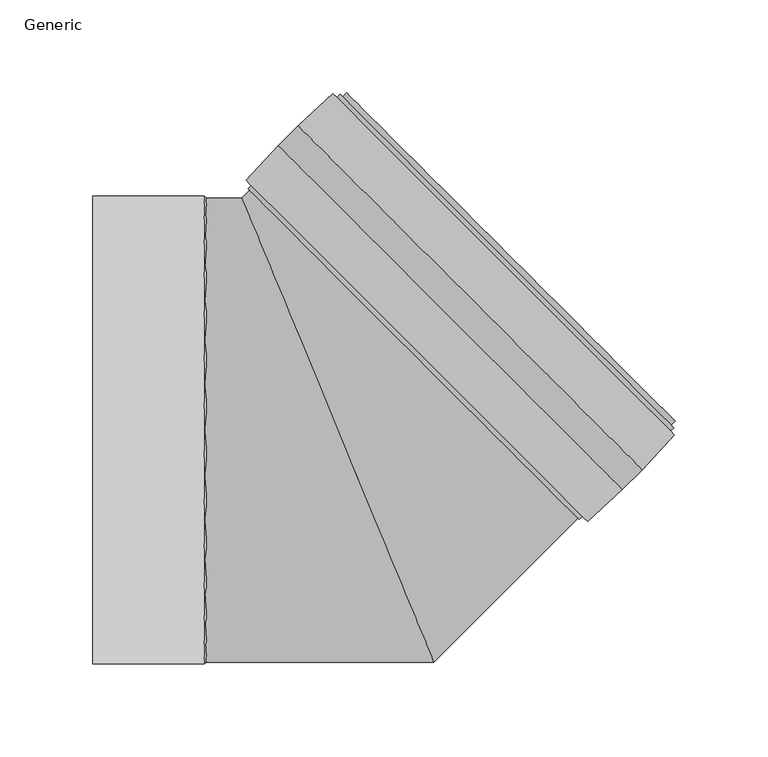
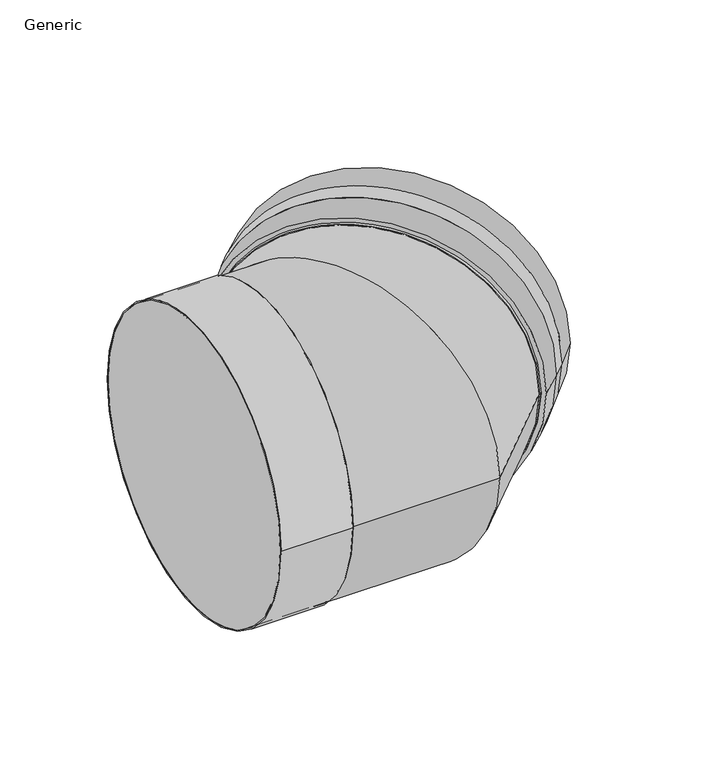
"""IFC4 building model written with IfcOpenShell, lengths in millimetres: pipe fitting geometry, CADS_Jeremias_Elbow_Socket1 : Generic."""

from ifc_helpers import new_model, si_unit, point, frame, origin, place, context, project, spatial, polyline, circle_curve, ellipse_curve, trimmed, source, transform, mapped, element, save
from ifc_brep_helpers import plane_surface, cylinder_surface, revolved_surface, advanced_brep


def generic_9bd3fc94(model_context):
    return source(origin(), model_context, "Body", "AdvancedBrep", [
        advanced_brep(
        [(-0.5367428, 179.0683796, 0.0), (1.2310241, 180.8361466, 0.0), (180.8361466, 1.2310241, 0.0), (179.0683796, -0.5367428, 0.0), (179.421933, 2.6452377, 0.0), (2.6452377, 179.421933, 0.0), (129.2426407, -47.5340546, 0.0), (-47.5340546, 129.2426407, 0.0), (129.9541948, -48.2456087, 0.0), (131.7219617, -46.4778418, 0.0), (-46.4778418, 131.7219617, 0.0), (-48.2456087, 129.9541948, 0.0), (-2.6580632, 181.1897, 0.0), (181.1897, -2.6580632, 0.0), (134.5459415, -49.3018216, 0.0), (-49.3018216, 134.5459415, 0.0), (163.865378, -21.3708979, 0.0), (-21.3708979, 163.865378, 0.0), (153.2587763, -31.9774996, 0.0), (-31.9774996, 153.2587763, 0.0)],
        [
            (0, 1),
            (1, 2, circle_curve(frame((91.0335854, 91.0335854, 0.0), z_axis=(-0.7071067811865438, -0.7071067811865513, 0.0), x_axis=(0.7071067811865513, -0.7071067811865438, 0.0)), 127.0)),
            (2, 3),
            (3, 0, circle_curve(frame((89.2658184, 89.2658184, 0.0), z_axis=(0.7071067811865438, 0.7071067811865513, 0.0), x_axis=(0.7071067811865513, -0.7071067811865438, 0.0)), 127.0)),
            (1, 2, circle_curve(frame((91.0335854, 91.0335854, 0.0), z_axis=(0.7071067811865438, 0.7071067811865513, 0.0), x_axis=(-0.7071067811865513, 0.7071067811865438, 0.0)), 127.0)),
            (4, 5, circle_curve(frame((91.0335854, 91.0335854, 0.0), z_axis=(-0.7071067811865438, -0.7071067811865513, 0.0), x_axis=(-0.7071067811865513, 0.7071067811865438, 0.0)), 125.0)),
            (5, 4, circle_curve(frame((91.0335854, 91.0335854, 0.0), z_axis=(-0.7071067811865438, -0.7071067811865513, 0.0), x_axis=(0.7071067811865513, -0.7071067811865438, 0.0)), 125.0)),
            (4, 6),
            (6, 7, circle_curve(frame((40.854293, 40.854293, 0.0), z_axis=(-0.7071067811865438, -0.7071067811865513, 0.0), x_axis=(-0.7071067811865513, 0.7071067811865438, 0.0)), 125.0)),
            (7, 5),
            (0, 3, circle_curve(frame((89.2658184, 89.2658184, 0.0), z_axis=(0.7071067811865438, 0.7071067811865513, 0.0), x_axis=(-0.7071067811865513, 0.7071067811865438, 0.0)), 127.0)),
            (8, 9),
            (9, 10, circle_curve(frame((42.62206, 42.62206, 0.0), z_axis=(-0.7071067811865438, -0.7071067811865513, 0.0), x_axis=(-0.7071067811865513, 0.7071067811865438, 0.0)), 126.0062895)),
            (10, 11),
            (11, 8, circle_curve(frame((40.854293, 40.854293, 0.0), z_axis=(0.7071067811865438, 0.7071067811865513, 0.0), x_axis=(-0.7071067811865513, 0.7071067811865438, 0.0)), 126.0062895)),
            (11, 8, circle_curve(frame((40.854293, 40.854293, 0.0), z_axis=(-0.7071067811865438, -0.7071067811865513, 0.0), x_axis=(0.7071067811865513, -0.7071067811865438, 0.0)), 126.0062895)),
            (6, 7, circle_curve(frame((40.854293, 40.854293, 0.0), z_axis=(0.7071067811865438, 0.7071067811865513, 0.0), x_axis=(0.7071067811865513, -0.7071067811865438, 0.0)), 125.0)),
            (12, 13, circle_curve(frame((89.2658184, 89.2658184, 0.0), z_axis=(0.7071067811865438, 0.7071067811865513, 0.0), x_axis=(-0.7071067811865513, 0.7071067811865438, 0.0)), 130.0)),
            (13, 12, circle_curve(frame((89.2658184, 89.2658184, 0.0), z_axis=(0.7071067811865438, 0.7071067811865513, 0.0), x_axis=(0.7071067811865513, -0.7071067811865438, 0.0)), 130.0)),
            (14, 15, circle_curve(frame((42.62206, 42.62206, 0.0), z_axis=(-0.7071067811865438, -0.7071067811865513, 0.0), x_axis=(-0.7071067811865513, 0.7071067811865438, 0.0)), 130.0)),
            (15, 14, circle_curve(frame((42.62206, 42.62206, 0.0), z_axis=(-0.7071067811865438, -0.7071067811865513, 0.0), x_axis=(0.7071067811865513, -0.7071067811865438, 0.0)), 130.0)),
            (9, 10, circle_curve(frame((42.62206, 42.62206, 0.0), z_axis=(0.7071067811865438, 0.7071067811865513, 0.0), x_axis=(0.7071067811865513, -0.7071067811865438, 0.0)), 126.0062895)),
            (16, 13, circle_curve(frame((-70.3068715, 212.8013516, 0.0), z_axis=(0.0, 0.0, 1.0), x_axis=(-0.7071067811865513, 0.7071067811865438, 0.0)), 331.1695712)),
            (12, 17, circle_curve(frame((212.8013516, -70.3068715, 0.0), z_axis=(0.0, 0.0, 1.0), x_axis=(0.7071067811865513, -0.7071067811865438, 0.0)), 331.1695712)),
            (17, 16, circle_curve(frame((71.2472401, 71.2472401, 0.0), z_axis=(0.7071067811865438, 0.7071067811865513, 0.0), x_axis=(-0.7071067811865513, 0.7071067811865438, 0.0)), 130.9818268)),
            (18, 16),
            (17, 19),
            (19, 18, circle_curve(frame((60.6406383, 60.6406383, 0.0), z_axis=(0.7071067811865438, 0.7071067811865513, 0.0), x_axis=(-0.7071067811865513, 0.7071067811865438, 0.0)), 130.9818268)),
            (14, 18, circle_curve(frame((-80.9134732, 202.1947499, 0.0), z_axis=(0.0, 0.0, 1.0), x_axis=(-0.7071067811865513, 0.7071067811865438, 0.0)), 331.1695712)),
            (19, 15, circle_curve(frame((202.1947499, -80.9134732, 0.0), z_axis=(0.0, 0.0, 1.0), x_axis=(0.7071067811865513, -0.7071067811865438, 0.0)), 331.1695712)),
            (16, 17, circle_curve(frame((71.2472401, 71.2472401, 0.0), z_axis=(0.7071067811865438, 0.7071067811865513, 0.0), x_axis=(0.7071067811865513, -0.7071067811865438, 0.0)), 130.9818268)),
            (18, 19, circle_curve(frame((60.6406383, 60.6406383, 0.0), z_axis=(0.7071067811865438, 0.7071067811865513, 0.0), x_axis=(0.7071067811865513, -0.7071067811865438, 0.0)), 130.9818268)),
        ],
        [
            cylinder_surface(frame((50.753788, 50.753788, 0.0), z_axis=(-0.7071067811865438, -0.7071067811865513, 0.0), x_axis=(0.7071067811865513, -0.7071067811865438, 0.0)), 127.0),
            plane_surface(frame((91.0335854, 91.0335854, 0.0), z_axis=(0.7071067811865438, 0.7071067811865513, 0.0), x_axis=(0.7071067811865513, -0.7071067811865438, 0.0))),
            revolved_surface(polyline([(-47.534054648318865, 129.24264064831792, 0.0), (2.645237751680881, 179.4219330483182, 0.0)]), (50.753788, 50.753788, 0.0), (-0.7071067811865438, -0.7071067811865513, 0.0)),
            cylinder_surface(frame((50.753788, 50.753788, 0.0), z_axis=(-0.7071067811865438, -0.7071067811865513, 0.0), x_axis=(-0.7071067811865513, 0.7071067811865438, 0.0)), 127.0),
            cylinder_surface(frame((50.753788, 50.753788, 0.0), z_axis=(-0.7071067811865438, -0.7071067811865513, 0.0), x_axis=(-0.7071067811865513, 0.7071067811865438, 0.0)), 126.0062895),
            plane_surface(frame((40.854293, 40.854293, 0.0), z_axis=(-0.7071067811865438, -0.7071067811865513, 0.0), x_axis=(0.7071067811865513, -0.7071067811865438, 0.0))),
            revolved_surface(polyline([(129.24264064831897, -47.53405464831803, 0.0), (179.4219330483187, 2.6452377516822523, 0.0)]), (50.753788, 50.753788, 0.0), (-0.7071067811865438, -0.7071067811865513, 0.0)),
            plane_surface(frame((89.2658184, 89.2658184, 0.0), z_axis=(0.7071067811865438, 0.7071067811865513, 0.0), x_axis=(0.7071067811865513, -0.7071067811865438, 0.0))),
            plane_surface(frame((42.62206, 42.62206, 0.0), z_axis=(-0.7071067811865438, -0.7071067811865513, 0.0), x_axis=(0.7071067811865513, -0.7071067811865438, 0.0))),
            cylinder_surface(frame((50.753788, 50.753788, 0.0), z_axis=(-0.7071067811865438, -0.7071067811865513, 0.0), x_axis=(0.7071067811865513, -0.7071067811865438, 0.0)), 126.0062895),
            revolved_surface(trimmed(ellipse_curve(frame((212.8013516, -70.3068715, 0.0), z_axis=(0.0, 0.0, 1.0), x_axis=(0.7071067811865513, -0.7071067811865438, 0.0)), 331.1695712, 331.1695712), [point((-2.6580632, 181.1897, 0.0))], [point((-21.3708979, 163.865378, 0.0))], True, "CARTESIAN"), (50.753788, 50.753788, 0.0), (-0.7071067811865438, -0.7071067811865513, 0.0)),
            cylinder_surface(frame((50.753788, 50.753788, 0.0), z_axis=(-0.7071067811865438, -0.7071067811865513, 0.0), x_axis=(-0.7071067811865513, 0.7071067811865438, 0.0)), 130.9818268),
            revolved_surface(trimmed(ellipse_curve(frame((202.1947499, -80.9134732, 0.0), z_axis=(0.0, 0.0, 1.0), x_axis=(0.7071067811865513, -0.7071067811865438, 0.0)), 331.1695712, 331.1695712), [point((-31.9774996, 153.2587763, 0.0))], [point((-49.3018216, 134.5459415, 0.0))], True, "CARTESIAN"), (50.753788, 50.753788, 0.0), (-0.7071067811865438, -0.7071067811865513, 0.0)),
            revolved_surface(trimmed(ellipse_curve(frame((-70.3068715, 212.8013516, 0.0), z_axis=(0.0, 0.0, -1.0), x_axis=(-0.7071067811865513, 0.7071067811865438, 0.0)), 331.1695712, 331.1695712), [point((181.1897, -2.6580632, 0.0))], [point((163.865378, -21.3708979, 0.0))], True, "CARTESIAN"), (50.753788, 50.753788, 0.0), (-0.7071067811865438, -0.7071067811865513, 0.0)),
            cylinder_surface(frame((50.753788, 50.753788, 0.0), z_axis=(-0.7071067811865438, -0.7071067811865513, 0.0), x_axis=(0.7071067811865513, -0.7071067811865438, 0.0)), 130.9818268),
            revolved_surface(trimmed(ellipse_curve(frame((-80.9134732, 202.1947499, 0.0), z_axis=(0.0, 0.0, -1.0), x_axis=(-0.7071067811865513, 0.7071067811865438, 0.0)), 331.1695712, 331.1695712), [point((153.2587763, -31.9774996, 0.0))], [point((134.5459415, -49.3018216, 0.0))], True, "CARTESIAN"), (50.753788, 50.753788, 0.0), (-0.7071067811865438, -0.7071067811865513, 0.0)),
        ],
        [
            (0, [[1, 2, 3, 4]]),
            (1, [[5, -2], [6, 7]]),
            (2, [[8, 9, 10, -6]]),
            (3, [[-3, -5, -1, 11]]),
            (4, [[12, 13, 14, 15]]),
            (5, [[-15, 16], [-9, 17]]),
            (6, [[-10, -17, -8, -7]]),
            (7, [[18, 19], [-11, -4]]),
            (8, [[20, 21], [-13, 22]]),
            (9, [[-14, -22, -12, -16]]),
            (10, [[23, -18, 24, 25]]),
            (11, [[26, -25, 27, 28]]),
            (12, [[29, -28, 30, -20]]),
            (13, [[-24, -19, -23, 31]]),
            (14, [[-27, -31, -26, 32]]),
            (15, [[-30, -32, -29, -21]]),
        ],
    ),
        advanced_brep(
        [(-71.7766953, 126.0, 0.0), (-71.7766953, -126.0, 0.0), (-131.7766953, -126.0, 0.0), (-131.7766953, 126.0, 0.0), (-70.7766953, 125.0, 0.0), (-70.7766953, -125.0, 0.0), (-131.7766953, 125.0, 0.0), (-131.7766953, -125.0, 0.0)],
        [
            (0, 1, circle_curve(frame((-71.7766953, 0.0, 0.0), z_axis=(-1.0, 0.0, 0.0), x_axis=(0.0, -1.0, 0.0)), 126.0)),
            (1, 2),
            (2, 3, circle_curve(frame((-131.7766953, 0.0, 0.0), z_axis=(1.0, 0.0, 0.0), x_axis=(0.0, -1.0, 0.0)), 126.0)),
            (3, 0),
            (4, 5, circle_curve(frame((-70.7766953, 0.0, 0.0), z_axis=(-1.0, 0.0, 0.0), x_axis=(0.0, -1.0, 0.0)), 125.0)),
            (5, 1),
            (0, 4),
            (6, 7, circle_curve(frame((-131.7766953, 0.0, 0.0), z_axis=(-1.0, 0.0, 0.0), x_axis=(0.0, -1.0, 0.0)), 125.0)),
            (7, 5),
            (4, 6),
            (2, 3, circle_curve(frame((-131.7766953, 0.0, 0.0), z_axis=(-1.0, 0.0, 0.0), x_axis=(0.0, 1.0, 0.0)), 126.0)),
            (6, 7, circle_curve(frame((-131.7766953, 0.0, 0.0), z_axis=(1.0, 0.0, 0.0), x_axis=(0.0, 1.0, 0.0)), 125.0)),
            (1, 0, circle_curve(frame((-71.7766953, 0.0, 0.0), z_axis=(-1.0, 0.0, 0.0), x_axis=(0.0, 1.0, 0.0)), 126.0)),
            (5, 4, circle_curve(frame((-70.7766953, 0.0, 0.0), z_axis=(-1.0, 0.0, 0.0), x_axis=(0.0, 1.0, 0.0)), 125.0)),
        ],
        [
            cylinder_surface(frame((-131.7766953, 0.0, 0.0), z_axis=(1.0, 0.0, 0.0), x_axis=(0.0, -1.0, 0.0)), 126.0),
            revolved_surface(polyline([(-71.7766953, -126.0, 0.0), (-70.7766953, -125.0, 0.0)]), (-131.7766953, 0.0, 0.0), (1.0, 0.0, 0.0)),
            revolved_surface(polyline([(-70.7766953, -125.0, 0.0), (-131.7766953, -125.0, 0.0)]), (-131.7766953, 0.0, 0.0), (1.0, 0.0, 0.0)),
            plane_surface(frame((-131.7766953, 0.0, 0.0), z_axis=(-1.0, 0.0, 0.0), x_axis=(0.0, 1.0, 0.0))),
            cylinder_surface(frame((-131.7766953, 0.0, 0.0), z_axis=(1.0, 0.0, 0.0), x_axis=(0.0, 1.0, 0.0)), 126.0),
            revolved_surface(polyline([(-71.7766953, 126.0, 0.0), (-70.7766953, 125.0, 0.0)]), (-131.7766953, 0.0, 0.0), (1.0, 0.0, 0.0)),
            revolved_surface(polyline([(-70.7766953, 125.0, 0.0), (-131.7766953, 125.0, 0.0)]), (-131.7766953, 0.0, 0.0), (1.0, 0.0, 0.0)),
        ],
        [
            (0, [[1, 2, 3, 4]]),
            (1, [[5, 6, -1, 7]]),
            (2, [[8, 9, -5, 10]]),
            (3, [[11, -3], [12, -8]]),
            (4, [[13, -4, -11, -2]]),
            (5, [[14, -7, -13, -6]]),
            (6, [[-12, -10, -14, -9]]),
        ],
    ),
        advanced_brep(
        [(-131.7766953, -125.0, 0.0), (-131.7766953, 125.0, 0.0), (-71.7766953, 125.0, 0.0), (-71.7766953, -125.0, 0.0), (51.7766953, -125.0, 0.0), (-51.7766953, 125.0, 0.0), (139.1421356, -37.6345597, 0.0), (-37.6345597, 139.1421356, 0.0), (181.5685425, 4.7918472, 0.0), (4.7918472, 181.5685425, 0.0)],
        [
            (0, 1, circle_curve(frame((-131.7766953, 0.0, 0.0), z_axis=(-1.0, 0.0, 0.0), x_axis=(0.0, 1.0, 0.0)), 125.0)),
            (1, 0, circle_curve(frame((-131.7766953, 0.0, 0.0), z_axis=(-1.0, 0.0, 0.0), x_axis=(0.0, 1.0, 0.0)), 125.0)),
            (2, 3, circle_curve(frame((-71.7766953, 0.0, 0.0), z_axis=(1.0, 0.0, 0.0), x_axis=(0.0, 1.0, 0.0)), 125.0)),
            (3, 4),
            (4, 5, ellipse_curve(frame((0.0, 0.0, 0.0), z_axis=(-0.923879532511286, -0.3826834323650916, 0.0), x_axis=(-0.3826834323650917, 0.9238795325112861, 0.0)), 135.299025, 125.0)),
            (5, 2),
            (3, 2, circle_curve(frame((-71.7766953, 0.0, 0.0), z_axis=(1.0, 0.0, 0.0), x_axis=(0.0, 1.0, 0.0)), 125.0)),
            (5, 4, ellipse_curve(frame((0.0, 0.0, 0.0), z_axis=(-0.923879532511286, -0.3826834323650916, 0.0), x_axis=(-0.3826834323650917, 0.9238795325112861, 0.0)), 135.299025, 125.0)),
            (4, 6),
            (6, 7, circle_curve(frame((50.753788, 50.753788, 0.0), z_axis=(-0.7071067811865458, -0.7071067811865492, 0.0), x_axis=(-0.7071067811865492, 0.7071067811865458, 0.0)), 125.0)),
            (7, 5),
            (7, 6, circle_curve(frame((50.753788, 50.753788, 0.0), z_axis=(-0.7071067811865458, -0.7071067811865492, 0.0), x_axis=(-0.7071067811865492, 0.7071067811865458, 0.0)), 125.0)),
            (8, 9, circle_curve(frame((93.1801948, 93.1801948, 0.0), z_axis=(0.707106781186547, 0.707106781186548, 0.0), x_axis=(-0.707106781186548, 0.707106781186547, 0.0)), 125.0)),
            (9, 8, circle_curve(frame((93.1801948, 93.1801948, 0.0), z_axis=(0.707106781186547, 0.707106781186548, 0.0), x_axis=(-0.707106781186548, 0.707106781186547, 0.0)), 125.0)),
            (6, 8),
            (9, 7),
            (0, 3),
            (2, 1),
        ],
        [
            plane_surface(frame((-131.7766953, 0.0, 0.0), z_axis=(-1.0, 0.0, 0.0), x_axis=(0.0, 0.0, 1.0))),
            cylinder_surface(frame((-71.7766953, 0.0, 0.0), z_axis=(-1.0, 0.0, 0.0), x_axis=(0.0, 1.0, 0.0)), 125.0),
            cylinder_surface(frame((0.0, 0.0, 0.0), z_axis=(-0.7071067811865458, -0.7071067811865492, 0.0), x_axis=(-0.7071067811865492, 0.7071067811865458, 0.0)), 125.0),
            plane_surface(frame((93.1801948, 93.1801948, 0.0), z_axis=(0.7071067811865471, 0.7071067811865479, 0.0), x_axis=(0.0, 0.0, 1.0))),
            cylinder_surface(frame((50.753788, 50.753788, 0.0), z_axis=(-0.707106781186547, -0.707106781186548, 0.0), x_axis=(-0.707106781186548, 0.707106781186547, 0.0)), 125.0),
            cylinder_surface(frame((-131.7766953, 0.0, 0.0), z_axis=(-1.0, 0.0, 0.0), x_axis=(0.0, 1.0, 0.0)), 125.0),
        ],
        [
            (0, [[1, 2]]),
            (1, [[3, 4, 5, 6]]),
            (1, [[7, -6, 8, -4]]),
            (2, [[-5, 9, 10, 11]]),
            (2, [[-8, -11, 12, -9]]),
            (3, [[13, 14]]),
            (4, [[-10, 15, -14, 16]]),
            (4, [[-12, -16, -13, -15]]),
            (5, [[-1, 17, -3, 18]]),
            (5, [[-2, -18, -7, -17]]),
        ],
    ),
    ])


if __name__ == "__main__":
    model = new_model("IFC4")
    model_context = context("Model", 3, world=origin())
    ifc_project = project(units=[si_unit("LENGTHUNIT", "METRE", prefix="MILLI")], contexts=[model_context])
    site = spatial("IfcSite", under=ifc_project)
    building = spatial("IfcBuilding", under=site)
    placement = place(None, origin())
    generic_shape = generic_9bd3fc94(model_context)
    element("IfcPipeFitting", 1, ObjectType="CADS_Jeremias_Elbow_Socket1 : Generic", at=placement, inside=building, context=model_context, shape_type="MappedRepresentation", body=[
        mapped(generic_shape, transform((0.0, 0.0, 0.0), x_axis=(1.0, 0.0, 0.0), y_axis=(0.0, 1.0, 0.0), z_axis=(0.0, 0.0, 1.0))),
    ])
    save(model, "model.ifc")
